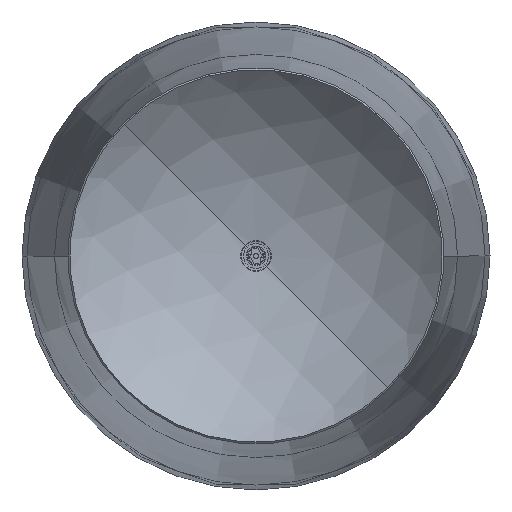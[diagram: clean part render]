
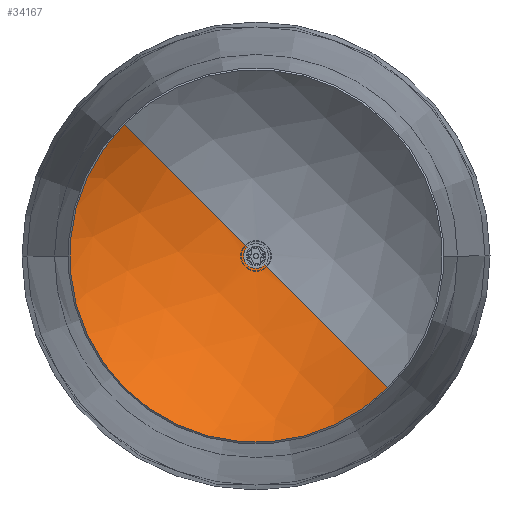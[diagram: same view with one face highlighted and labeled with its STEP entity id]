
A CAD part, front view. The second image highlights one B-rep face of the part: STEP entity #34167.
In plain terms, the highlighted spherical face has radius 108 mm.
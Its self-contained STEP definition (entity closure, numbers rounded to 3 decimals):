
#488 = CARTESIAN_POINT ( 'NONE',  ( -28.596, -256.304, 8.276 ) ) ;
#1927 = DIRECTION ( 'NONE',  ( -0.707, 0., 0.707 ) ) ;
#2160 = EDGE_CURVE ( 'NONE', #2656, #34587, #53249, .T. ) ;
#2656 = VERTEX_POINT ( 'NONE', #47626 ) ;
#6712 = ORIENTED_EDGE ( 'NONE', *, *, #15219, .T. ) ;
#9984 = ORIENTED_EDGE ( 'NONE', *, *, #2160, .F. ) ;
#14036 = CIRCLE ( 'NONE', #47572, 79.266 ) ;
#14374 = ORIENTED_EDGE ( 'NONE', *, *, #14579, .F. ) ;
#14579 = EDGE_CURVE ( 'NONE', #17133, #2656, #21509, .T. ) ;
#15219 = EDGE_CURVE ( 'NONE', #21690, #34587, #14036, .T. ) ;
#15445 = CARTESIAN_POINT ( 'NONE',  ( -28.596, -221.787, 8.276 ) ) ;
#16755 = DIRECTION ( 'NONE',  ( -0.707, 0., -0.707 ) ) ;
#17133 = VERTEX_POINT ( 'NONE', #25558 ) ;
#18355 = CARTESIAN_POINT ( 'NONE',  ( -84.645, -256.304, 64.325 ) ) ;
#19955 = CIRCLE ( 'NONE', #52488, 108. ) ;
#20351 = CARTESIAN_POINT ( 'NONE',  ( -28.596, -329.659, 8.276 ) ) ;
#20642 = DIRECTION ( 'NONE',  ( 0.707, 0., 0.707 ) ) ;
#21509 = CIRCLE ( 'NONE', #48464, 5.25 ) ;
#21690 = VERTEX_POINT ( 'NONE', #18355 ) ;
#22084 = DIRECTION ( 'NONE',  ( 0.707, 0., -0.707 ) ) ;
#25558 = CARTESIAN_POINT ( 'NONE',  ( -32.308, -221.787, 11.988 ) ) ;
#26299 = EDGE_LOOP ( 'NONE', ( #14374, #44308, #6712, #9984 ) ) ;
#27438 = DIRECTION ( 'NONE',  ( 0., -1., 0. ) ) ;
#33176 = DIRECTION ( 'NONE',  ( 0.707, 0., -0.707 ) ) ;
#33214 = DIRECTION ( 'NONE',  ( 0., -1., 0. ) ) ;
#34167 = ADVANCED_FACE ( 'NONE', ( #39266 ), #44143, .F. ) ;
#34587 = VERTEX_POINT ( 'NONE', #43201 ) ;
#34618 = AXIS2_PLACEMENT_3D ( 'NONE', #52263, #16755, #51993 ) ;
#35463 = CARTESIAN_POINT ( 'NONE',  ( -28.596, -329.659, 8.276 ) ) ;
#39266 = FACE_OUTER_BOUND ( 'NONE', #26299, .T. ) ;
#42463 = AXIS2_PLACEMENT_3D ( 'NONE', #35463, #43860, #22084 ) ;
#43201 = CARTESIAN_POINT ( 'NONE',  ( 27.453, -256.304, -47.773 ) ) ;
#43860 = DIRECTION ( 'NONE',  ( 0.707, 0., 0.707 ) ) ;
#44143 = SPHERICAL_SURFACE ( 'NONE', #42463, 108. ) ;
#44308 = ORIENTED_EDGE ( 'NONE', *, *, #45725, .T. ) ;
#45386 = DIRECTION ( 'NONE',  ( -0.707, 0., 0.707 ) ) ;
#45725 = EDGE_CURVE ( 'NONE', #17133, #21690, #19955, .T. ) ;
#47572 = AXIS2_PLACEMENT_3D ( 'NONE', #488, #27438, #45386 ) ;
#47626 = CARTESIAN_POINT ( 'NONE',  ( -24.884, -221.787, 4.563 ) ) ;
#48464 = AXIS2_PLACEMENT_3D ( 'NONE', #15445, #33214, #1927 ) ;
#51993 = DIRECTION ( 'NONE',  ( -0.707, 0., 0.707 ) ) ;
#52263 = CARTESIAN_POINT ( 'NONE',  ( -28.596, -329.659, 8.276 ) ) ;
#52488 = AXIS2_PLACEMENT_3D ( 'NONE', #20351, #20642, #33176 ) ;
#53249 = CIRCLE ( 'NONE', #34618, 108. ) ;
